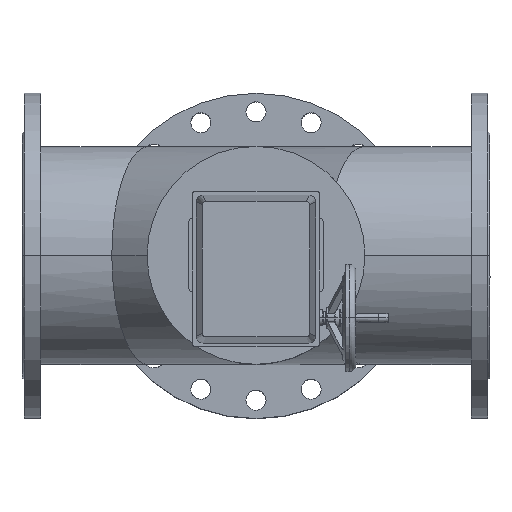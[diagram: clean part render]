
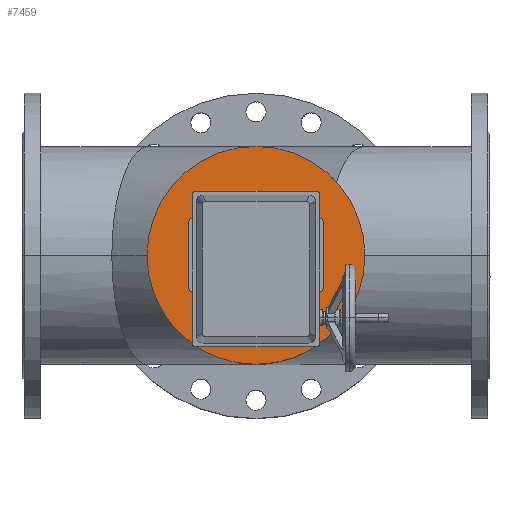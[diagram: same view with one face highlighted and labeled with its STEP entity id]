
A CAD part, top view. The second image highlights one B-rep face of the part: STEP entity #7459.
In plain terms, the highlighted planar face has unit normal (0, 0, 1).
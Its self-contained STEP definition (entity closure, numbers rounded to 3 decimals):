
#1639=FACE_OUTER_BOUND('',#2199,.T.);
#2199=EDGE_LOOP('',(#5676,#5677));
#2794=CIRCLE('',#8245,162.5);
#2795=CIRCLE('',#8246,162.5);
#3382=VERTEX_POINT('',#12128);
#3383=VERTEX_POINT('',#12129);
#4188=EDGE_CURVE('',#3382,#3383,#2794,.T.);
#4189=EDGE_CURVE('',#3383,#3382,#2795,.T.);
#5676=ORIENTED_EDGE('',*,*,#4188,.T.);
#5677=ORIENTED_EDGE('',*,*,#4189,.T.);
#6765=PLANE('',#8244);
#7459=ADVANCED_FACE('',(#1639),#6765,.T.);
#8244=AXIS2_PLACEMENT_3D('',#12127,#9896,#9897);
#8245=AXIS2_PLACEMENT_3D('',#12130,#9898,#9899);
#8246=AXIS2_PLACEMENT_3D('',#12131,#9900,#9901);
#9896=DIRECTION('center_axis',(0.,0.,1.));
#9897=DIRECTION('ref_axis',(0.,-1.,0.));
#9898=DIRECTION('center_axis',(0.,0.,1.));
#9899=DIRECTION('ref_axis',(-1.,0.,0.));
#9900=DIRECTION('center_axis',(0.,0.,1.));
#9901=DIRECTION('ref_axis',(-1.,0.,0.));
#12127=CARTESIAN_POINT('Origin',(-162.5,0.,306.));
#12128=CARTESIAN_POINT('',(162.5,0.,306.));
#12129=CARTESIAN_POINT('',(-162.5,0.,306.));
#12130=CARTESIAN_POINT('Origin',(0.,0.,306.));
#12131=CARTESIAN_POINT('Origin',(0.,0.,306.));
